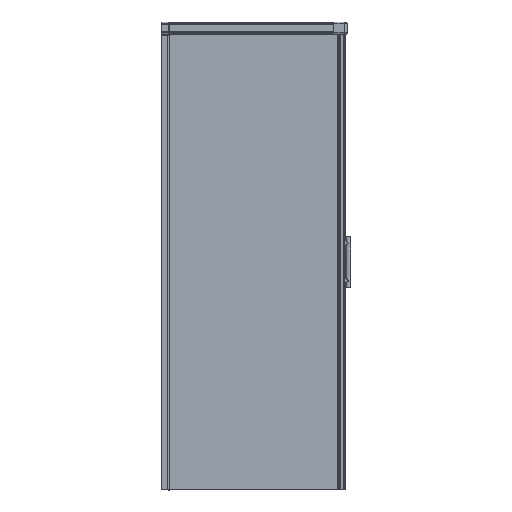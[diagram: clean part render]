
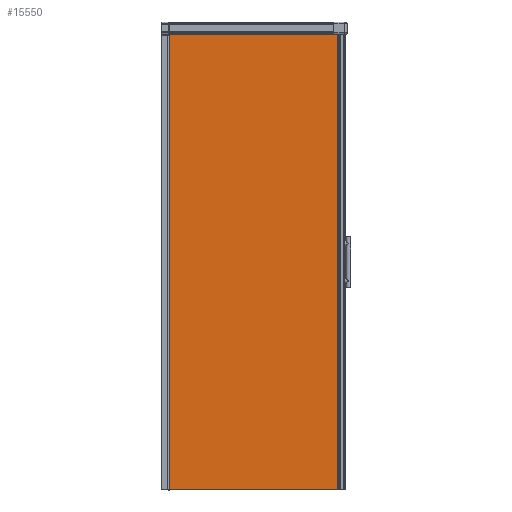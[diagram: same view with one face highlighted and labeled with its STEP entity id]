
A CAD part, front view. The second image highlights one B-rep face of the part: STEP entity #15550.
In plain terms, the highlighted planar face has unit normal (0, -1, 0).
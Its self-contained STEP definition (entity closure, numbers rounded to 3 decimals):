
#710=LINE($,#23857,#2218);
#769=LINE($,#24112,#2277);
#855=LINE($,#24386,#2363);
#856=LINE($,#24388,#2364);
#857=LINE($,#24392,#2365);
#858=LINE($,#24394,#2366);
#859=LINE($,#24396,#2367);
#860=LINE($,#24398,#2368);
#861=LINE($,#24400,#2369);
#862=LINE($,#24402,#2370);
#863=LINE($,#24404,#2371);
#864=LINE($,#24405,#2372);
#2218=VECTOR($,#19006,1.6);
#2277=VECTOR($,#19187,20.8);
#2363=VECTOR($,#19431,699.);
#2364=VECTOR($,#19432,0.5);
#2365=VECTOR($,#19435,24.534);
#2366=VECTOR($,#19436,3.5);
#2367=VECTOR($,#19437,24.234);
#2368=VECTOR($,#19438,20.);
#2369=VECTOR($,#19439,1.794);
#2370=VECTOR($,#19440,1925.);
#2371=VECTOR($,#19441,719.306);
#2372=VECTOR($,#19442,1948.4);
#3935=FACE_OUTER_BOUND($,#4789,.T.);
#4789=EDGE_LOOP($,(#11176,#11177,#11178,#11179,#11180,#11181,#11182,#11183,
#11184,#11185,#11186,#11187,#11188));
#5560=CIRCLE($,#16645,1.);
#6403=VERTEX_POINT($,#23854);
#6404=VERTEX_POINT($,#23856);
#6501=VERTEX_POINT($,#24111);
#6574=VERTEX_POINT($,#24385);
#6575=VERTEX_POINT($,#24387);
#6576=VERTEX_POINT($,#24389);
#6577=VERTEX_POINT($,#24391);
#6578=VERTEX_POINT($,#24393);
#6579=VERTEX_POINT($,#24395);
#6580=VERTEX_POINT($,#24397);
#6581=VERTEX_POINT($,#24399);
#6582=VERTEX_POINT($,#24401);
#6583=VERTEX_POINT($,#24403);
#8090=EDGE_CURVE($,#6404,#6403,#710,.T.);
#8197=EDGE_CURVE($,#6501,#6404,#769,.T.);
#8316=EDGE_CURVE($,#6574,#6403,#855,.T.);
#8317=EDGE_CURVE($,#6575,#6574,#856,.T.);
#8318=EDGE_CURVE($,#6576,#6575,#5560,.T.);
#8319=EDGE_CURVE($,#6577,#6576,#857,.T.);
#8320=EDGE_CURVE($,#6578,#6577,#858,.T.);
#8321=EDGE_CURVE($,#6579,#6578,#859,.T.);
#8322=EDGE_CURVE($,#6580,#6579,#860,.T.);
#8323=EDGE_CURVE($,#6581,#6580,#861,.T.);
#8324=EDGE_CURVE($,#6582,#6581,#862,.T.);
#8325=EDGE_CURVE($,#6583,#6582,#863,.T.);
#8326=EDGE_CURVE($,#6583,#6501,#864,.T.);
#11176=ORIENTED_EDGE($,*,*,#8090,.T.);
#11177=ORIENTED_EDGE($,*,*,#8316,.F.);
#11178=ORIENTED_EDGE($,*,*,#8317,.F.);
#11179=ORIENTED_EDGE($,*,*,#8318,.F.);
#11180=ORIENTED_EDGE($,*,*,#8319,.F.);
#11181=ORIENTED_EDGE($,*,*,#8320,.F.);
#11182=ORIENTED_EDGE($,*,*,#8321,.F.);
#11183=ORIENTED_EDGE($,*,*,#8322,.F.);
#11184=ORIENTED_EDGE($,*,*,#8323,.F.);
#11185=ORIENTED_EDGE($,*,*,#8324,.F.);
#11186=ORIENTED_EDGE($,*,*,#8325,.F.);
#11187=ORIENTED_EDGE($,*,*,#8326,.T.);
#11188=ORIENTED_EDGE($,*,*,#8197,.T.);
#14091=PLANE($,#16644);
#15550=ADVANCED_FACE($,(#3935),#14091,.T.);
#16644=AXIS2_PLACEMENT_3D($,#24384,#19429,#19430);
#16645=AXIS2_PLACEMENT_3D($,#24390,#19433,#19434);
#19006=DIRECTION($,(0.,0.,1.));
#19187=DIRECTION($,(-1.,0.,0.));
#19429=DIRECTION('center_axis',(0.,-1.,
0.));
#19430=DIRECTION('ref_axis',(1.,0.,0.));
#19431=DIRECTION($,(1.,0.,0.));
#19432=DIRECTION($,(0.,0.,1.));
#19433=DIRECTION('center_axis',(0.,-1.,
0.));
#19434=DIRECTION('ref_axis',(1.,0.,0.));
#19435=DIRECTION($,(1.,0.,0.));
#19436=DIRECTION($,(0.,0.,1.));
#19437=DIRECTION($,(-1.,0.,0.));
#19438=DIRECTION($,(0.,0.,1.));
#19439=DIRECTION($,(-1.,0.,0.));
#19440=DIRECTION($,(0.,0.,1.));
#19441=DIRECTION($,(-1.,0.,0.));
#19442=DIRECTION($,(0.,0.,1.));
#23854=CARTESIAN_POINT('',(200.14,1579.928,2403.722));
#23856=CARTESIAN_POINT('',(200.14,1579.928,2402.122));
#23857=CARTESIAN_POINT($,(200.14,1579.928,1454.522));
#24111=CARTESIAN_POINT('',(220.94,1579.928,2402.122));
#24112=CARTESIAN_POINT($,(-148.015,1579.92,2402.122));
#24384=CARTESIAN_POINT('Origin',(-524.394,1579.913,454.722));
#24385=CARTESIAN_POINT('',(-498.86,1579.913,2403.722));
#24386=CARTESIAN_POINT($,(-159.627,1579.92,2403.722));
#24387=CARTESIAN_POINT('',(-498.86,1579.913,2403.222));
#24388=CARTESIAN_POINT($,(-498.86,1579.913,1441.722));
#24389=CARTESIAN_POINT('',(-499.86,1579.913,2402.222));
#24390=CARTESIAN_POINT('Origin',(-499.86,1579.913,2403.222));
#24391=CARTESIAN_POINT('',(-524.394,1579.913,2402.222));
#24392=CARTESIAN_POINT($,(-528.127,1579.913,2402.222));
#24393=CARTESIAN_POINT('',(-524.394,1579.913,2398.722));
#24394=CARTESIAN_POINT($,(-524.394,1579.913,454.722));
#24395=CARTESIAN_POINT('',(-500.16,1579.913,2398.722));
#24396=CARTESIAN_POINT($,(-520.439,1579.913,2398.722));
#24397=CARTESIAN_POINT('',(-500.16,1579.913,2378.722));
#24398=CARTESIAN_POINT($,(-500.16,1579.913,454.222));
#24399=CARTESIAN_POINT('',(-498.367,1579.913,2378.722));
#24400=CARTESIAN_POINT($,(-518.413,1579.913,2378.722));
#24401=CARTESIAN_POINT('',(-498.367,1579.913,453.722));
#24402=CARTESIAN_POINT($,(-498.367,1579.913,2378.722));
#24403=CARTESIAN_POINT('',(220.94,1579.928,453.722));
#24404=CARTESIAN_POINT($,(230.606,1579.928,453.722));
#24405=CARTESIAN_POINT($,(220.94,1579.928,453.722));
